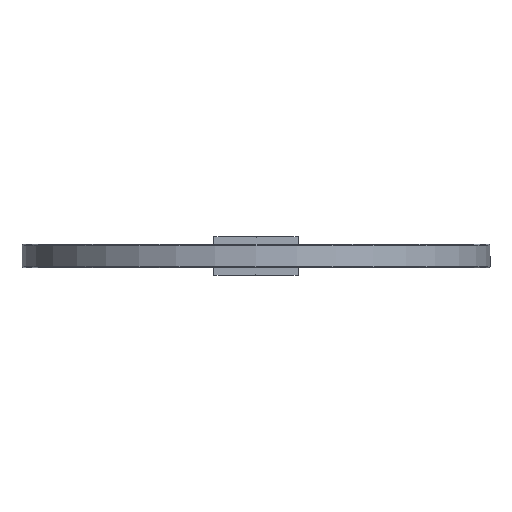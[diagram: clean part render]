
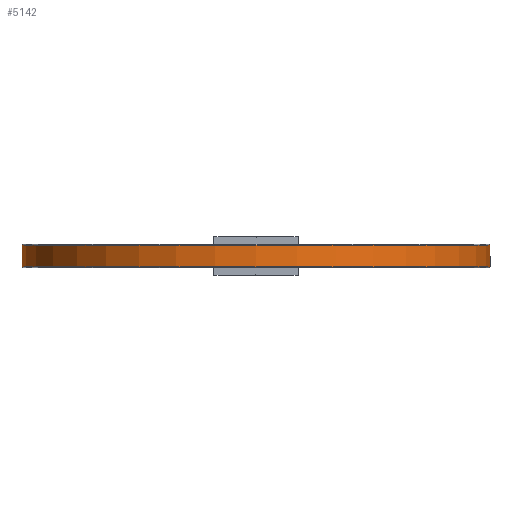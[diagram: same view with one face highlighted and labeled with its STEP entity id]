
A CAD part, front view. The second image highlights one B-rep face of the part: STEP entity #5142.
In plain terms, the highlighted cylindrical face has radius 100.15 mm (diameter 200.3 mm), a partial arc.
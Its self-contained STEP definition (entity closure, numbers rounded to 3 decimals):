
#302 = CIRCLE ( 'NONE', #1371, 100.15 ) ;
#817 = LINE ( 'NONE', #4489, #5719 ) ;
#1267 = DIRECTION ( 'NONE',  ( 0., 0., -1. ) ) ;
#1300 = VECTOR ( 'NONE', #1775, 1000. ) ;
#1371 = AXIS2_PLACEMENT_3D ( 'NONE', #7417, #5677, #1415 ) ;
#1415 = DIRECTION ( 'NONE',  ( -1., 0., 0. ) ) ;
#1549 = EDGE_LOOP ( 'NONE', ( #5721, #3844, #6350, #2546 ) ) ;
#1650 = DIRECTION ( 'NONE',  ( 1., 0., 0. ) ) ;
#1676 = DIRECTION ( 'NONE',  ( 0., 0., 1. ) ) ;
#1775 = DIRECTION ( 'NONE',  ( 0., 0., -1. ) ) ;
#2048 = VERTEX_POINT ( 'NONE', #3593 ) ;
#2546 = ORIENTED_EDGE ( 'NONE', *, *, #4732, .T. ) ;
#3397 = CYLINDRICAL_SURFACE ( 'NONE', #7035, 100.15 ) ;
#3500 = AXIS2_PLACEMENT_3D ( 'NONE', #7094, #1676, #1650 ) ;
#3541 = LINE ( 'NONE', #4759, #1300 ) ;
#3576 = CARTESIAN_POINT ( 'NONE',  ( 0., 0., 10. ) ) ;
#3593 = CARTESIAN_POINT ( 'NONE',  ( 100.15, 0., 0.5 ) ) ;
#3622 = CARTESIAN_POINT ( 'NONE',  ( 100.15, 0., 9.5 ) ) ;
#3668 = EDGE_CURVE ( 'NONE', #6834, #4272, #817, .T. ) ;
#3844 = ORIENTED_EDGE ( 'NONE', *, *, #7099, .F. ) ;
#4242 = DIRECTION ( 'NONE',  ( -1., 0., 0. ) ) ;
#4272 = VERTEX_POINT ( 'NONE', #4446 ) ;
#4446 = CARTESIAN_POINT ( 'NONE',  ( -100.15, 0., 0.5 ) ) ;
#4489 = CARTESIAN_POINT ( 'NONE',  ( -100.15, 0., 10. ) ) ;
#4628 = VERTEX_POINT ( 'NONE', #3622 ) ;
#4732 = EDGE_CURVE ( 'NONE', #4272, #2048, #302, .T. ) ;
#4759 = CARTESIAN_POINT ( 'NONE',  ( 100.15, 0., 10. ) ) ;
#4860 = CIRCLE ( 'NONE', #3500, 100.15 ) ;
#5104 = DIRECTION ( 'NONE',  ( 0., 0., -1. ) ) ;
#5142 = ADVANCED_FACE ( 'NONE', ( #7470 ), #3397, .T. ) ;
#5677 = DIRECTION ( 'NONE',  ( 0., 0., 1. ) ) ;
#5719 = VECTOR ( 'NONE', #5104, 1000. ) ;
#5721 = ORIENTED_EDGE ( 'NONE', *, *, #5902, .F. ) ;
#5902 = EDGE_CURVE ( 'NONE', #4628, #2048, #3541, .T. ) ;
#6350 = ORIENTED_EDGE ( 'NONE', *, *, #3668, .T. ) ;
#6834 = VERTEX_POINT ( 'NONE', #7406 ) ;
#7035 = AXIS2_PLACEMENT_3D ( 'NONE', #3576, #1267, #4242 ) ;
#7094 = CARTESIAN_POINT ( 'NONE',  ( 0., 0., 9.5 ) ) ;
#7099 = EDGE_CURVE ( 'NONE', #6834, #4628, #4860, .T. ) ;
#7406 = CARTESIAN_POINT ( 'NONE',  ( -100.15, 0., 9.5 ) ) ;
#7417 = CARTESIAN_POINT ( 'NONE',  ( 0., 0., 0.5 ) ) ;
#7470 = FACE_OUTER_BOUND ( 'NONE', #1549, .T. ) ;
